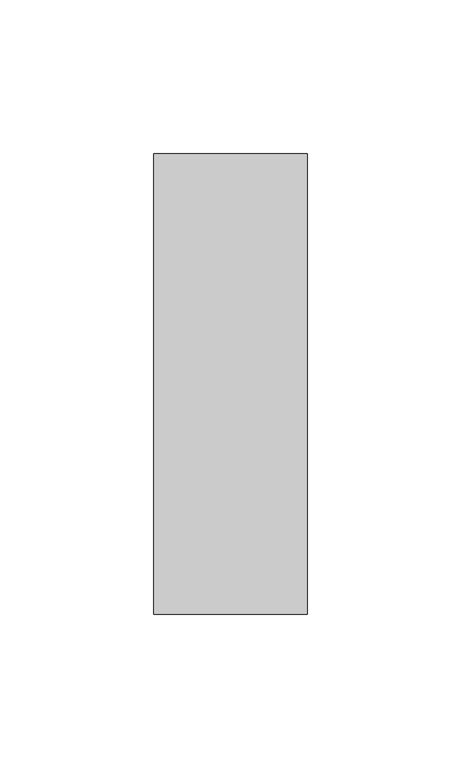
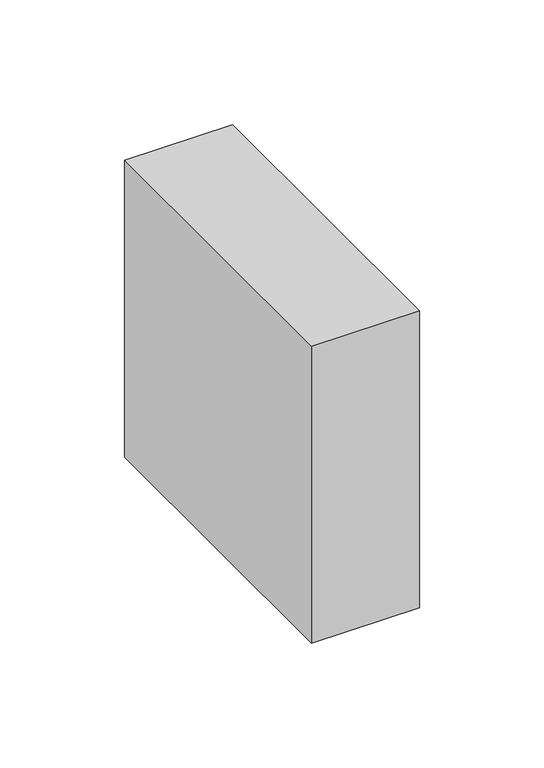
"""IFC4 building model written with IfcOpenShell, lengths in millimetres: member geometry, Прямоугольный импост : 50 x 150 мм."""

from ifc_helpers import new_model, si_unit, frame, origin, place, context, project, spatial, polyline, outline, extrude, source, transform, mapped, element, save


def member_0a64f929(model_context):
    return source(origin(), model_context, "Body", "SweptSolid", [
        extrude(outline(polyline([(0.0, 75.0), (0.0, -75.0), (-50.0, -75.0), (-50.0, 75.0), (0.0, 75.0)])), frame((0.0, 0.0, -145.4089138), z_axis=(0.0, 0.0, 1.0), x_axis=(1.0, 0.0, 0.0)), (0.0, 0.0, 1.0), 145.4089138),
    ])


if __name__ == "__main__":
    model = new_model("IFC4")
    model_context = context("Model", 3, world=origin())
    ifc_project = project(units=[si_unit("LENGTHUNIT", "METRE", prefix="MILLI")], contexts=[model_context])
    site = spatial("IfcSite", under=ifc_project)
    building = spatial("IfcBuilding", under=site)
    placement = place(None, origin())
    member_shape = member_0a64f929(model_context)
    element("IfcMember", 1, ObjectType="Прямоугольный импост : 50 x 150 мм", at=placement, inside=building, context=model_context, shape_type="MappedRepresentation", body=[
        mapped(member_shape, transform((0.0, 0.0, 0.0), x_axis=(1.0, 0.0, 0.0), y_axis=(0.0, 1.0, 0.0), z_axis=(0.0, 0.0, 1.0))),
    ])
    save(model, "model.ifc")
